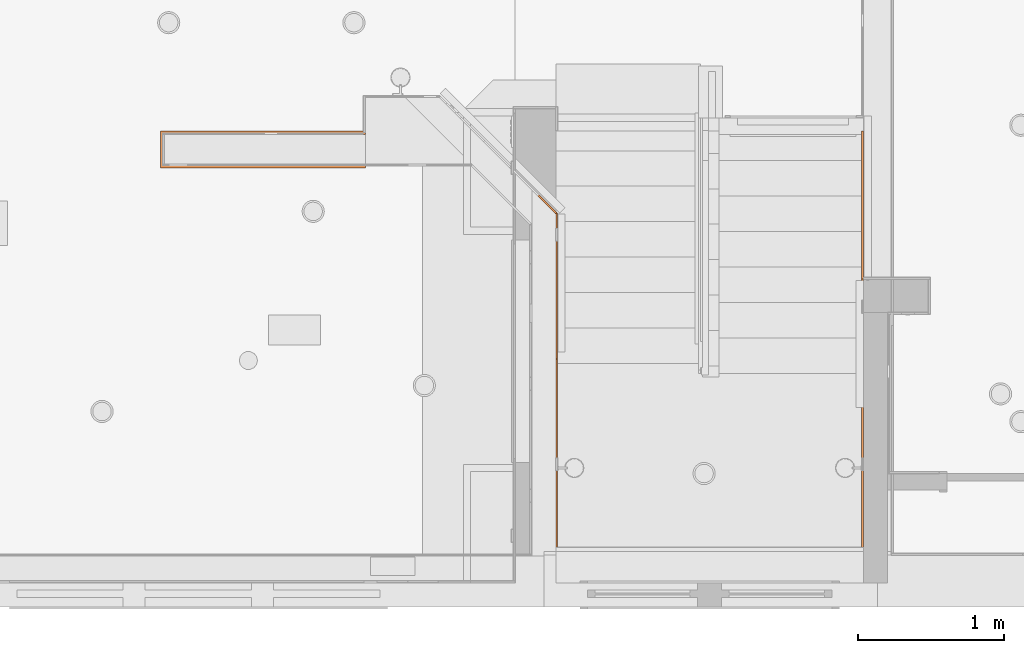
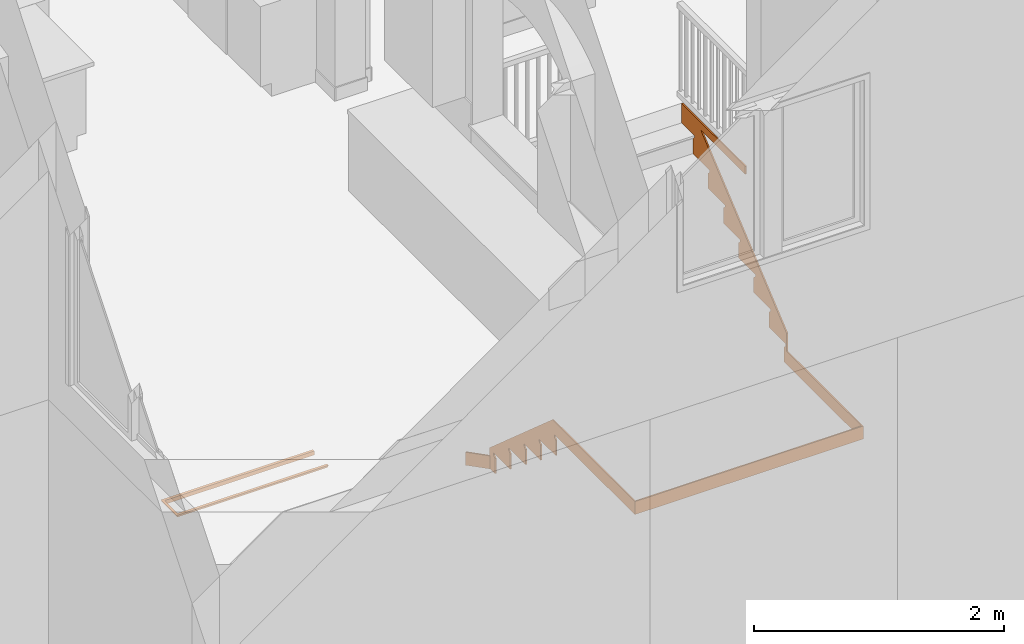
# One storey, part 72 of 81: 2 proxies.
"""IFC2X3 building model written with IfcOpenShell, lengths in feet."""

from ifc_helpers import new_model, entity, si_unit, converted_unit, derived_unit, direction, frame, origin, place, context, subcontext, project, spatial, faceted_brep, source, transform, mapped, material, type_object, type_shapes, element, save


model = new_model("IFC2X3")

# Units and contexts
model_context = context("Model", 3, precision=0.0001, world=origin(), true_north=direction((6.12303176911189e-17, 1.0)))
body_context = subcontext(model_context, "Body", "Model", "MODEL_VIEW")
ifc_project = project(units=[converted_unit("LENGTHUNIT", "FOOT", entity("IfcRatioMeasure", 0.3048), si_unit("LENGTHUNIT", "METRE"), dimensions=[1, 0, 0, 0, 0, 0, 0]), converted_unit("AREAUNIT", "SQUARE FOOT", entity("IfcRatioMeasure", 0.09290304), si_unit("AREAUNIT", "SQUARE_METRE"), dimensions=[2, 0, 0, 0, 0, 0, 0]), converted_unit("VOLUMEUNIT", "CUBIC FOOT", entity("IfcRatioMeasure", 0.028316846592), si_unit("VOLUMEUNIT", "CUBIC_METRE"), dimensions=[3, 0, 0, 0, 0, 0, 0]), converted_unit("PLANEANGLEUNIT", "DEGREE", entity("IfcRatioMeasure", 0.0174532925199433), si_unit("PLANEANGLEUNIT", "RADIAN"), dimensions=[0, 0, 0, 0, 0, 0, 0]), si_unit("MASSUNIT", "GRAM", prefix="KILO"), derived_unit("MASSDENSITYUNIT", [(si_unit("MASSUNIT", "GRAM", prefix="KILO"), 1), (si_unit("LENGTHUNIT", "METRE"), -3)]), derived_unit("MOMENTOFINERTIAUNIT", [(si_unit("LENGTHUNIT", "METRE"), 4)]), si_unit("TIMEUNIT", "SECOND"), si_unit("FREQUENCYUNIT", "HERTZ"), si_unit("THERMODYNAMICTEMPERATUREUNIT", "DEGREE_CELSIUS"), derived_unit("THERMALTRANSMITTANCEUNIT", [(si_unit("MASSUNIT", "GRAM", prefix="KILO"), 1), (si_unit("THERMODYNAMICTEMPERATUREUNIT", "KELVIN"), -1), (si_unit("TIMEUNIT", "SECOND"), -3)]), derived_unit("VOLUMETRICFLOWRATEUNIT", [(si_unit("LENGTHUNIT", "METRE"), 3), (si_unit("TIMEUNIT", "SECOND"), -1)]), si_unit("ELECTRICCURRENTUNIT", "AMPERE"), si_unit("ELECTRICVOLTAGEUNIT", "VOLT"), si_unit("POWERUNIT", "WATT"), si_unit("FORCEUNIT", "NEWTON"), si_unit("ILLUMINANCEUNIT", "LUX"), si_unit("LUMINOUSFLUXUNIT", "LUMEN"), si_unit("LUMINOUSINTENSITYUNIT", "CANDELA"), derived_unit("USERDEFINED", [(si_unit("MASSUNIT", "GRAM", prefix="KILO"), -1), (si_unit("LENGTHUNIT", "METRE"), -2), (si_unit("TIMEUNIT", "SECOND"), 3), (si_unit("LUMINOUSFLUXUNIT", "LUMEN"), 1)]), derived_unit("LINEARVELOCITYUNIT", [(si_unit("LENGTHUNIT", "METRE"), 1), (si_unit("TIMEUNIT", "SECOND"), -1)]), si_unit("PRESSUREUNIT", "PASCAL"), derived_unit("USERDEFINED", [(si_unit("LENGTHUNIT", "METRE"), -2), (si_unit("MASSUNIT", "GRAM", prefix="KILO"), 1), (si_unit("TIMEUNIT", "SECOND"), -2)]), derived_unit("LINEARFORCEUNIT", [(si_unit("MASSUNIT", "GRAM", prefix="KILO"), 1), (si_unit("LENGTHUNIT", "METRE"), 1), (si_unit("TIMEUNIT", "SECOND"), -2), (si_unit("LENGTHUNIT", "METRE"), -1)]), derived_unit("PLANARFORCEUNIT", [(si_unit("MASSUNIT", "GRAM", prefix="KILO"), 1), (si_unit("LENGTHUNIT", "METRE"), 1), (si_unit("TIMEUNIT", "SECOND"), -2), (si_unit("LENGTHUNIT", "METRE"), -2)])], contexts=[model_context])

# Site, building, storey
site_placement = place(None, origin())
site = spatial("IfcSite", under=ifc_project, at=site_placement, Name="Default", CompositionType="ELEMENT")
building_placement = place(site_placement, origin())
building = spatial("IfcBuilding", under=site, at=building_placement, CompositionType="ELEMENT")
storey_placement = place(building_placement, origin())
storey = spatial("IfcBuildingStorey", under=building, at=storey_placement, Name="First floor", CompositionType="ELEMENT", Elevation=0.0)

# Proxies
ifc_material = material(Name="Default New Material")
building_element_proxy_type_1 = type_object("IfcBuildingElementProxyType", Name="Generic Models 11:Generic Models 11", PredefinedType="NOTDEFINED", material=ifc_material)
shared_shape_1 = source(origin(), body_context, "Body", "Brep", [
    faceted_brep([(7.34471288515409, 9.45833333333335, 7.53125), (7.34471288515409, 8.78571430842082, 7.53125), (7.34471288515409, 8.78571430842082, 7.46875), (7.34471288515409, 8.86904764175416, 7.38541666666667), (7.34471288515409, 8.86904764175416, 6.90364583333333), (7.34471288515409, 7.98809520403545, 6.90364583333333), (7.34471288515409, 7.98809520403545, 6.84114583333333), (7.34471288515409, 8.07142853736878, 6.7578125), (7.34471288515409, 8.07142853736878, 6.27604166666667), (7.34471288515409, 7.19047609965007, 6.27604166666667), (7.34471288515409, 7.19047609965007, 6.21354166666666), (7.34471288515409, 7.2738094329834, 6.13020833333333), (7.34471288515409, 7.2738094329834, 5.6484375), (7.34471288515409, 6.39285723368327, 5.6484375), (7.34471288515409, 6.39285723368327, 5.5859375), (7.34471288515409, 6.47619056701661, 5.50260416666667), (7.34471288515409, 6.47619056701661, 5.02083333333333), (7.34471288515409, 5.59523789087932, 5.02083333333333), (7.34471288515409, 5.59523789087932, 4.95833333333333), (7.34471288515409, 5.67857122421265, 4.875), (7.34471288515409, 5.67857122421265, 4.39322916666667), (7.34471288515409, 4.79761902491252, 4.39322916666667), (7.34471288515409, 4.79761902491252, 4.33072916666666), (7.34471288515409, 4.88095235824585, 4.24739583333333), (7.34471288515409, 4.88095235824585, 3.765625), (7.34471288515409, 4.00000015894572, 3.765625), (7.34471288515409, 4.00000015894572, 3.703125), (7.34471288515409, 4.08333349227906, 3.61979166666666), (7.34471288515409, 4.08333349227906, 3.13802083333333), (7.34471288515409, 3.95833332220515, 3.13802083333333), (7.34471288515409, 3.95833332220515, 4.13802083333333), (7.34471288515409, 8.44913396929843, 7.90625), (7.34471288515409, 6.12500000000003, 7.90625), (7.34471288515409, 6.12500000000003, 8.15625), (7.34471288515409, 9.45833333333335, 8.15625), (7.38637955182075, 9.45833333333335, 7.53125), (7.38637955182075, 9.45833333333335, 8.15625), (7.38637955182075, 6.12500000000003, 8.15625), (7.38637955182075, 6.12500000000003, 7.90625), (7.38637955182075, 8.44913396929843, 7.90625), (7.38637955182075, 3.95833332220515, 4.13802083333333), (7.38637955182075, 3.95833332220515, 3.13802083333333), (7.38637955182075, 4.08333349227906, 3.13802083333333), (7.38637955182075, 4.08333349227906, 3.61979166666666), (7.38637955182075, 4.00000015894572, 3.703125), (7.38637955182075, 4.00000015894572, 3.765625), (7.38637955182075, 4.88095235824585, 3.765625), (7.38637955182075, 4.88095235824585, 4.24739583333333), (7.38637955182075, 4.79761902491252, 4.33072916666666), (7.38637955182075, 4.79761902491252, 4.39322916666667), (7.38637955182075, 5.67857122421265, 4.39322916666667), (7.38637955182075, 5.67857122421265, 4.875), (7.38637955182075, 5.59523789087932, 4.95833333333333), (7.38637955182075, 5.59523789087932, 5.02083333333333), (7.38637955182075, 6.47619056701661, 5.02083333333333), (7.38637955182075, 6.47619056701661, 5.50260416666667), (7.38637955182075, 6.39285723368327, 5.5859375), (7.38637955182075, 6.39285723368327, 5.6484375), (7.38637955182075, 7.2738094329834, 5.6484375), (7.38637955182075, 7.2738094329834, 6.13020833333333), (7.38637955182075, 7.19047609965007, 6.21354166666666), (7.38637955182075, 7.19047609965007, 6.27604166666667), (7.38637955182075, 8.07142853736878, 6.27604166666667), (7.38637955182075, 8.07142853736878, 6.7578125), (7.38637955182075, 7.98809520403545, 6.84114583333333), (7.38637955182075, 7.98809520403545, 6.90364583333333), (7.38637955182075, 8.86904764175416, 6.90364583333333), (7.38637955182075, 8.86904764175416, 7.38541666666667), (7.38637955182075, 8.78571430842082, 7.46875), (7.38637955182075, 8.78571430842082, 7.53125)], [[[0, 1, 2, 3, 4, 5, 6, 7, 8, 9, 10, 11, 12, 13, 14, 15, 16, 17, 18, 19, 20, 21, 22, 23, 24, 25, 26, 27, 28, 29, 30, 31, 32, 33, 34]], [[35, 36, 37, 38, 39, 40, 41, 42, 43, 44, 45, 46, 47, 48, 49, 50, 51, 52, 53, 54, 55, 56, 57, 58, 59, 60, 61, 62, 63, 64, 65, 66, 67, 68, 69]], [[1, 0, 35, 69]], [[2, 1, 69, 68]], [[3, 2, 68, 67]], [[4, 3, 67, 66]], [[5, 4, 66, 65]], [[6, 5, 65, 64]], [[7, 6, 64, 63]], [[8, 7, 63, 62]], [[9, 8, 62, 61]], [[10, 9, 61, 60]], [[11, 10, 60, 59]], [[12, 11, 59, 58]], [[13, 12, 58, 57]], [[14, 13, 57, 56]], [[15, 14, 56, 55]], [[16, 15, 55, 54]], [[17, 16, 54, 53]], [[18, 17, 53, 52]], [[19, 18, 52, 51]], [[20, 19, 51, 50]], [[21, 20, 50, 49]], [[22, 21, 49, 48]], [[23, 22, 48, 47]], [[24, 23, 47, 46]], [[25, 24, 46, 45]], [[26, 25, 45, 44]], [[27, 26, 44, 43]], [[28, 27, 43, 42]], [[29, 28, 42, 41]], [[30, 29, 41, 40]], [[31, 30, 40, 39]], [[32, 31, 39, 38]], [[33, 32, 38, 37]], [[34, 33, 37, 36]], [[0, 34, 36, 35]]]),
    faceted_brep([(0.499174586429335, 7.61279719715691, 0.0), (0.0294627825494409, 8.08250900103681, 0.0), (0.0294627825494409, 8.08250900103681, 0.416666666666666), (0.499174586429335, 7.61279719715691, 0.416666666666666), (0.469711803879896, 7.58333441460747, 0.416666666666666), (0.0, 8.05304621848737, 0.416666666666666), (0.0, 8.05304621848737, 0.0), (0.469711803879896, 7.58333441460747, 0.0), (0.511378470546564, 7.61279719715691, 0.0), (0.511378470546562, 7.33035715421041, 0.0), (0.469711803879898, 7.33035715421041, 0.0), (0.469711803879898, 7.61279719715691, 0.416666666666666), (0.511378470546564, 7.33035715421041, 0.481770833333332), (0.511378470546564, 7.61279719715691, 0.666666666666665), (0.511378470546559, 4.32914677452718, 3.55332549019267), (0.511378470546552, 0.0416666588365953, 3.55331220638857), (0.511378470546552, 0.0416666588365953, 3.13802083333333), (0.511378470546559, 4.22321430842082, 3.13802083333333), (0.511378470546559, 4.22321430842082, 3.07552083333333), (0.511378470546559, 4.13988097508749, 2.9921875), (0.511378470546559, 4.13988097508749, 2.51041666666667), (0.51137847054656, 5.02083317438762, 2.51041666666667), (0.51137847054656, 5.02083317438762, 2.44791666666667), (0.51137847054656, 4.93749984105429, 2.36458333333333), (0.51137847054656, 4.93749984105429, 1.8828125), (0.511378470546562, 5.81845251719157, 1.8828125), (0.511378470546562, 5.81845251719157, 1.8203125), (0.511378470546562, 5.73511918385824, 1.73697916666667), (0.511378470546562, 5.73511918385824, 1.25520833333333), (0.511378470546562, 6.61607138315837, 1.25520833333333), (0.511378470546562, 6.61607138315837, 1.19270833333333), (0.511378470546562, 6.53273804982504, 1.109375), (0.511378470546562, 6.53273804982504, 0.627604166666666), (0.511378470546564, 7.41369048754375, 0.627604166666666), (0.511378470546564, 7.41369048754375, 0.565104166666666), (0.469711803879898, 7.33035715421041, 0.481770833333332), (0.469711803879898, 7.41369048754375, 0.565104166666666), (0.469711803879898, 7.41369048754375, 0.627604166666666), (0.469711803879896, 6.53273804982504, 0.627604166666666), (0.469711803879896, 6.53273804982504, 1.109375), (0.469711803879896, 6.61607138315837, 1.19270833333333), (0.469711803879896, 6.61607138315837, 1.25520833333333), (0.469711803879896, 5.73511918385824, 1.25520833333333), (0.469711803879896, 5.73511918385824, 1.73697916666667), (0.469711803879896, 5.81845251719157, 1.8203125), (0.469711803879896, 5.81845251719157, 1.8828125), (0.469711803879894, 4.93749984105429, 1.8828125), (0.469711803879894, 4.93749984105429, 2.36458333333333), (0.469711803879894, 5.02083317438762, 2.44791666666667), (0.469711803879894, 5.02083317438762, 2.51041666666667), (0.469711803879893, 4.13988097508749, 2.51041666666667), (0.469711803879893, 4.13988097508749, 2.9921875), (0.469711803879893, 4.22321430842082, 3.07552083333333), (0.469711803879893, 4.22321430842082, 3.13802083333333), (0.469711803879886, 0.0, 3.13802083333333), (0.469711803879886, 0.0, 3.55331207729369), (0.469711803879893, 4.32914677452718, 3.55332549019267), (0.469711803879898, 7.61279719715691, 0.666666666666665), (7.38637955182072, 0.0, 3.55331207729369), (7.38637955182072, 3.95833332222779, 3.55332434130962), (7.34471288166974, 3.95833332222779, 3.55332434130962), (7.34471288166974, 0.0416666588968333, 3.55331220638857), (7.38637955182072, 0.0, 3.55333164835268), (7.38637955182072, 0.0, 3.13802083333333), (0.511379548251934, 0.0416666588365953, 3.13802083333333), (7.34471288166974, 0.041666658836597, 3.13802083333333), (7.34471288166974, 3.95833332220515, 3.13802083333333), (7.38637955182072, 3.95833332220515, 3.13802083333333), (7.38637955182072, 3.95833332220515, 3.55333164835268), (7.34471288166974, 3.95833332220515, 3.55333164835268), (0.511379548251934, 0.0416666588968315, 3.55331220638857), (7.34471288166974, 0.041666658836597, 3.55333164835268)], [[[0, 1, 2, 3]], [[4, 5, 6, 7]], [[1, 0, 8, 9, 10, 7, 6]], [[2, 1, 6, 5]], [[3, 2, 5, 4, 11]], [[12, 9, 8, 13, 14, 15, 16, 17, 18, 19, 20, 21, 22, 23, 24, 25, 26, 27, 28, 29, 30, 31, 32, 33, 34]], [[35, 36, 37, 38, 39, 40, 41, 42, 43, 44, 45, 46, 47, 48, 49, 50, 51, 52, 53, 54, 55, 56, 57, 11, 4, 7, 10]], [[9, 12, 35, 10]], [[13, 8, 0, 3, 11, 57]], [[14, 13, 57, 56]], [[56, 55, 58, 59, 60, 61, 15, 14]], [[62, 55, 54, 63]], [[63, 54, 53, 17, 64, 65, 66, 67]], [[18, 17, 53, 52]], [[19, 18, 52, 51]], [[20, 19, 51, 50]], [[21, 20, 50, 49]], [[22, 21, 49, 48]], [[23, 22, 48, 47]], [[24, 23, 47, 46]], [[25, 24, 46, 45]], [[26, 25, 45, 44]], [[27, 26, 44, 43]], [[28, 27, 43, 42]], [[29, 28, 42, 41]], [[30, 29, 41, 40]], [[31, 30, 40, 39]], [[32, 31, 39, 38]], [[33, 32, 38, 37]], [[34, 33, 37, 36]], [[12, 34, 36, 35]], [[59, 62, 63, 67]], [[60, 68, 67, 66]], [[61, 69, 66, 65]], [[70, 71, 65, 16]]]),
])
type_shapes(building_element_proxy_type_1, [shared_shape_1])
proxy_1_placement = place(storey_placement, frame((12.9886204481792, 1.25, 2.51041666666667)))
element("IfcBuildingElementProxy", 1, at=proxy_1_placement, inside=storey, type_object=building_element_proxy_type_1, material=ifc_material, Name="Generic Models 11:Generic Models 11", ObjectType="Generic Models 11:Generic Models 11", context=body_context, shape_type="MappedRepresentation", body=[
    mapped(shared_shape_1, transform((0.0, 0.0, 0.0), scale=1.0)),
])
building_element_proxy_type_2 = type_object("IfcBuildingElementProxyType", Name="Generic Models 37:Generic Models 37", PredefinedType="NOTDEFINED", material=ifc_material)
shared_shape_2 = source(origin(), body_context, "Body", "Brep", [
    faceted_brep([(4.60933573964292, 0.755233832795, 0.130233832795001), (4.60933573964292, 0.755233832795, 0.005233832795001), (4.60933573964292, 0.801479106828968, 0.0646814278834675), (4.60933573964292, 0.838567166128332, 0.130233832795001), (4.60933573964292, 0.0423218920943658, 0.0646814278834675), (4.60933573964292, 0.0885671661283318, 0.005233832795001), (4.60933573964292, 0.0885671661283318, 0.130233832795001), (4.60933573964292, 0.00523383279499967, 0.130233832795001), (0.0423218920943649, 0.80147910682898, 0.0646814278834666), (0.723168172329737, 0.838567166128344, 0.130233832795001), (0.939714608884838, 0.803149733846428, 0.0672033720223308), (3.89140002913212, 0.755233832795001, 0.005233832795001), (4.07088367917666, 0.803646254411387, 0.0679591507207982), (1.47834121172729, 0.79693121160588, 0.0579744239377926), (1.15625930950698, 0.838567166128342, 0.130233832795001), (1.73177103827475, 0.838567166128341, 0.130233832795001), (3.17346431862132, 0.755233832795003, 0.00523383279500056), (2.45552693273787, 0.755233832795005, 0.00523383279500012), (2.605710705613, 0.803880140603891, 0.0683161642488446), (3.89139938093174, 0.838567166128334, 0.130233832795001), (3.53243161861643, 0.801479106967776, 0.0646814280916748), (0.00523383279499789, 0.838567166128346, 0.130233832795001), (3.17346302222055, 0.838567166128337, 0.130233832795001), (1.73759122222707, 0.755233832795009, 0.00523383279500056), (2.01952841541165, 0.801599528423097, 0.0648621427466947), (0.913078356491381, 0.755233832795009, 0.00523383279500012), (0.0885671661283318, 0.755233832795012, 0.00523383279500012), (2.30728478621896, 0.838567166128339, 0.130233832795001), (0.0885671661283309, 0.088567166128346, 0.005233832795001), (0.0423218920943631, 0.0423218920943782, 0.064681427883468), (0.00523383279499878, 0.00523383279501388, 0.130233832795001), (0.939714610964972, 0.0406512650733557, 0.0672033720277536), (3.89140163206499, 0.00523383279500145, 0.130233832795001), (3.45831026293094, 0.00523383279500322, 0.130233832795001), (3.67485496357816, 0.0423218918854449, 0.0646814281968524), (0.723170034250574, 0.00523383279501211, 0.130233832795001), (0.913079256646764, 0.0885671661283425, 0.005233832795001), (2.60097548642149, 0.0402164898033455, 0.067865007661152), (3.13913777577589, 0.0375560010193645, 0.0719627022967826), (2.88279752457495, 0.005233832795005, 0.130233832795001), (1.7375913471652, 0.0885671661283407, 0.005233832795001), (2.01952841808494, 0.0422014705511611, 0.0648621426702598), (1.47834121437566, 0.046869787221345, 0.0579744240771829), (3.89139964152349, 0.0885671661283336, 0.005233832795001), (3.17346354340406, 0.0885671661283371, 0.005233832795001), (2.45552744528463, 0.0885671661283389, 0.005233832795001), (1.15625930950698, 0.00523383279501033, 0.130233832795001), (1.73177204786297, 0.00523383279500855, 0.130233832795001), (2.30728478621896, 0.00523383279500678, 0.130233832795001), (0.0885671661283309, 0.088567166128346, 0.130233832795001), (0.08856716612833, 0.755233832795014, 0.130233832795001)], [[[0, 1, 2, 3]], [[4, 5, 6, 7]], [[8, 9, 10]], [[1, 11, 12]], [[13, 14, 15]], [[16, 17, 18]], [[9, 14, 10]], [[19, 12, 20]], [[8, 21, 9]], [[19, 20, 22]], [[17, 23, 24]], [[17, 24, 18]], [[16, 20, 11]], [[13, 25, 10]], [[8, 10, 26]], [[3, 2, 12]], [[20, 12, 11]], [[27, 24, 15]], [[10, 25, 26]], [[24, 13, 15]], [[24, 27, 18]], [[13, 24, 23]], [[27, 22, 18]], [[18, 22, 20]], [[18, 20, 16]], [[25, 13, 23]], [[13, 10, 14]], [[3, 12, 19]], [[12, 2, 1]], [[26, 28, 29, 8]], [[29, 30, 21, 8]], [[29, 28, 31]], [[32, 33, 34, 4, 7]], [[35, 30, 29]], [[31, 28, 36]], [[29, 31, 35]], [[37, 38, 39]], [[40, 41, 42]], [[43, 5, 4, 34, 44]], [[33, 39, 38]], [[42, 36, 40]], [[45, 37, 41]], [[35, 31, 46]], [[47, 46, 42]], [[41, 37, 48]], [[31, 42, 46]], [[41, 48, 47]], [[44, 34, 38]], [[45, 41, 40]], [[47, 42, 41]], [[36, 42, 31]], [[44, 37, 45]], [[48, 37, 39]], [[44, 38, 37]], [[33, 38, 34]], [[0, 3, 19, 22, 27, 15, 14, 9, 21, 30, 35, 46, 47, 48, 39, 33, 32, 7, 6, 49, 50]], [[1, 0, 50, 26, 25, 23, 17, 16, 11]], [[26, 50, 49, 28]], [[49, 6, 5, 43, 44, 45, 40, 36, 28]]]),
])
type_shapes(building_element_proxy_type_2, [shared_shape_2])
proxy_2_placement = place(storey_placement, frame((4.56206715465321, 9.86982392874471, 3.369766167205)))
element("IfcBuildingElementProxy", 2, at=proxy_2_placement, inside=storey, type_object=building_element_proxy_type_2, material=ifc_material, Name="Generic Models 37:Generic Models 37", ObjectType="Generic Models 37:Generic Models 37", context=body_context, shape_type="MappedRepresentation", body=[
    mapped(shared_shape_2, transform((0.0, 0.0, 0.0), scale=1.0)),
])

save(model, "model.ifc")
